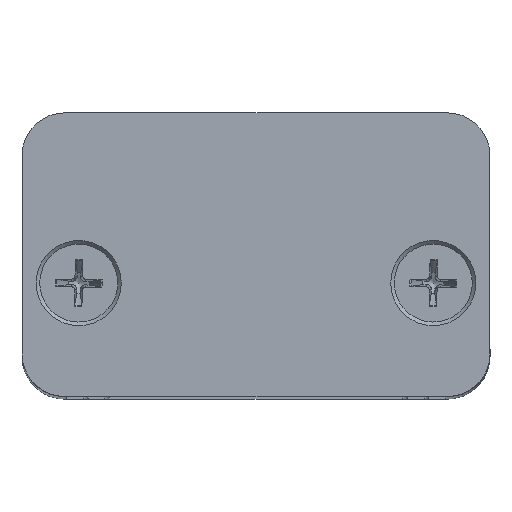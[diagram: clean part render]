
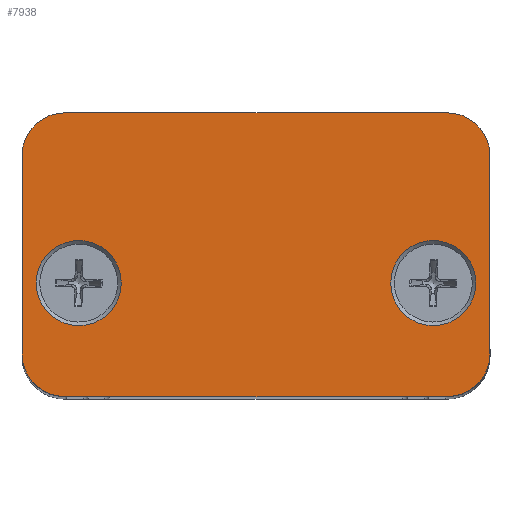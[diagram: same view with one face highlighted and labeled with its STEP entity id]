
A CAD part, top view. The second image highlights one B-rep face of the part: STEP entity #7938.
In plain terms, the highlighted planar face has unit normal (0, 0, 1).
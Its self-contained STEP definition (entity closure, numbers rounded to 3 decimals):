
#7548=CARTESIAN_POINT('',(-29.807,9.942,2.0));
#7549=VERTEX_POINT('',#7548);
#7550=CARTESIAN_POINT('',(-32.807,9.942,2.0));
#7551=DIRECTION('',(0.0,0.0,-1.0));
#7552=DIRECTION('',(1.0,0.0,0.0));
#7553=AXIS2_PLACEMENT_3D('',#7550,#7551,#7552);
#7554=CIRCLE('',#7553,3.0);
#7555=EDGE_CURVE('',#7549,#7549,#7554,.T.);
#7596=CARTESIAN_POINT('',(-4.807,9.942,2.0));
#7597=VERTEX_POINT('',#7596);
#7598=CARTESIAN_POINT('',(-7.807,9.942,2.0));
#7599=DIRECTION('',(0.0,0.0,-1.0));
#7600=DIRECTION('',(1.0,0.0,0.0));
#7601=AXIS2_PLACEMENT_3D('',#7598,#7599,#7600);
#7602=CIRCLE('',#7601,3.0);
#7603=EDGE_CURVE('',#7597,#7597,#7602,.T.);
#7644=CARTESIAN_POINT('',(-33.807,21.942,2.0));
#7645=VERTEX_POINT('',#7644);
#7646=CARTESIAN_POINT('',(-6.807,21.942,2.0));
#7647=VERTEX_POINT('',#7646);
#7648=CARTESIAN_POINT('',(-33.807,21.942,2.0));
#7649=DIRECTION('',(1.0,0.0,0.0));
#7650=VECTOR('',#7649,27.0);
#7651=LINE('',#7648,#7650);
#7652=EDGE_CURVE('',#7645,#7647,#7651,.T.);
#7684=CARTESIAN_POINT('',(-3.807,18.942,2.0));
#7685=VERTEX_POINT('',#7684);
#7686=CARTESIAN_POINT('',(-6.807,18.942,2.0));
#7687=DIRECTION('',(0.0,0.0,-1.0));
#7688=DIRECTION('',(1.0,0.0,0.0));
#7689=AXIS2_PLACEMENT_3D('',#7686,#7687,#7688);
#7690=CIRCLE('',#7689,3.0);
#7691=EDGE_CURVE('',#7647,#7685,#7690,.T.);
#7717=CARTESIAN_POINT('',(-3.807,4.942,2.0));
#7718=VERTEX_POINT('',#7717);
#7719=CARTESIAN_POINT('',(-3.807,18.942,2.0));
#7720=DIRECTION('',(0.0,-1.0,0.0));
#7721=VECTOR('',#7720,14.);
#7722=LINE('',#7719,#7721);
#7723=EDGE_CURVE('',#7685,#7718,#7722,.T.);
#7748=CARTESIAN_POINT('',(-6.807,1.942,2.0));
#7749=VERTEX_POINT('',#7748);
#7750=CARTESIAN_POINT('',(-6.807,4.942,2.0));
#7751=DIRECTION('',(0.0,0.0,-1.0));
#7752=DIRECTION('',(0.0,-1.0,0.0));
#7753=AXIS2_PLACEMENT_3D('',#7750,#7751,#7752);
#7754=CIRCLE('',#7753,3.0);
#7755=EDGE_CURVE('',#7718,#7749,#7754,.T.);
#7781=CARTESIAN_POINT('',(-33.807,1.942,2.0));
#7782=VERTEX_POINT('',#7781);
#7783=CARTESIAN_POINT('',(-6.807,1.942,2.0));
#7784=DIRECTION('',(-1.0,0.0,0.0));
#7785=VECTOR('',#7784,27.0);
#7786=LINE('',#7783,#7785);
#7787=EDGE_CURVE('',#7749,#7782,#7786,.T.);
#7812=CARTESIAN_POINT('',(-36.807,4.942,2.0));
#7813=VERTEX_POINT('',#7812);
#7814=CARTESIAN_POINT('',(-33.807,4.942,2.0));
#7815=DIRECTION('',(0.0,0.0,-1.0));
#7816=DIRECTION('',(-1.0,0.0,0.0));
#7817=AXIS2_PLACEMENT_3D('',#7814,#7815,#7816);
#7818=CIRCLE('',#7817,3.0);
#7819=EDGE_CURVE('',#7782,#7813,#7818,.T.);
#7845=CARTESIAN_POINT('',(-36.807,18.942,2.0));
#7846=VERTEX_POINT('',#7845);
#7847=CARTESIAN_POINT('',(-36.807,4.942,2.0));
#7848=DIRECTION('',(0.0,1.0,0.0));
#7849=VECTOR('',#7848,14.);
#7850=LINE('',#7847,#7849);
#7851=EDGE_CURVE('',#7813,#7846,#7850,.T.);
#7876=CARTESIAN_POINT('',(-33.807,18.942,2.0));
#7877=DIRECTION('',(0.0,0.0,-1.0));
#7878=DIRECTION('',(0.0,1.0,0.0));
#7879=AXIS2_PLACEMENT_3D('',#7876,#7877,#7878);
#7880=CIRCLE('',#7879,3.0);
#7881=EDGE_CURVE('',#7846,#7645,#7880,.T.);
#7917=CARTESIAN_POINT('',(-20.307,11.942,2.0));
#7918=DIRECTION('',(0.0,0.0,1.0));
#7919=DIRECTION('',(1.0,0.0,0.0));
#7920=AXIS2_PLACEMENT_3D('',#7917,#7918,#7919);
#7921=PLANE('',#7920);
#7922=ORIENTED_EDGE('',*,*,#7652,.F.);
#7923=ORIENTED_EDGE('',*,*,#7881,.F.);
#7924=ORIENTED_EDGE('',*,*,#7851,.F.);
#7925=ORIENTED_EDGE('',*,*,#7819,.F.);
#7926=ORIENTED_EDGE('',*,*,#7787,.F.);
#7927=ORIENTED_EDGE('',*,*,#7755,.F.);
#7928=ORIENTED_EDGE('',*,*,#7723,.F.);
#7929=ORIENTED_EDGE('',*,*,#7691,.F.);
#7930=EDGE_LOOP('',(#7922,#7923,#7924,#7925,#7926,#7927,#7928,#7929));
#7931=FACE_OUTER_BOUND('',#7930,.T.);
#7932=ORIENTED_EDGE('',*,*,#7555,.T.);
#7933=EDGE_LOOP('',(#7932));
#7934=FACE_BOUND('',#7933,.T.);
#7935=ORIENTED_EDGE('',*,*,#7603,.T.);
#7936=EDGE_LOOP('',(#7935));
#7937=FACE_BOUND('',#7936,.T.);
#7938=ADVANCED_FACE('',(#7931,#7934,#7937),#7921,.T.);
